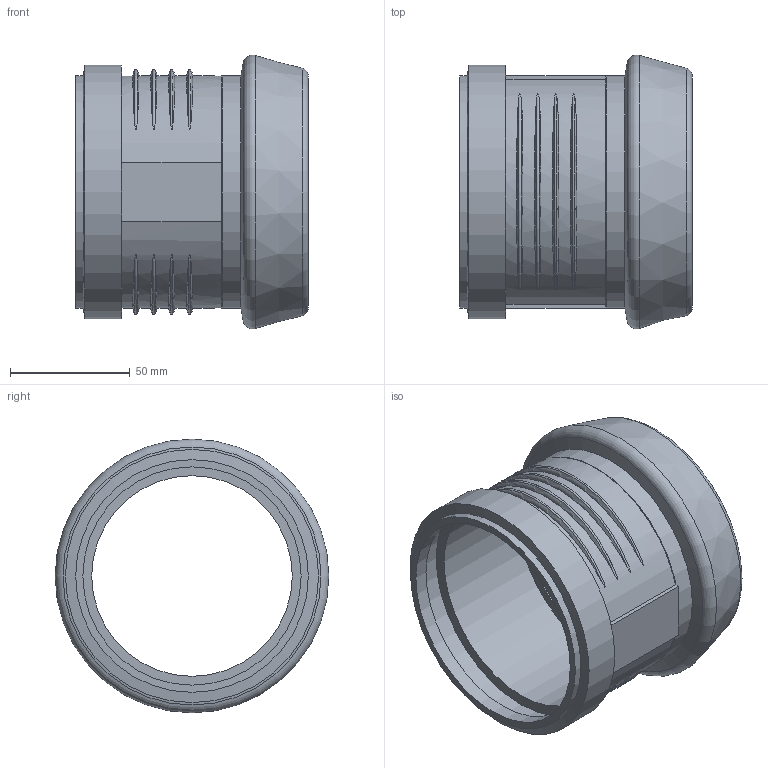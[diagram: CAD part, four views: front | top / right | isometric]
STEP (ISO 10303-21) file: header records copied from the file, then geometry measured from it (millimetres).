
FILE_DESCRIPTION(/* description */ (''),/* implementation_level */ '2;1');
FILE_NAME(/* name */ 'Z:\Geberit\Export\NewStep\390496.stp',/* time_stamp */ '2014-04-02T08:13:43+02:00',/* author */ ('Judith'),/* organization */ (''),/* preprocessor_version */ 'ST-DEVELOPER v15.2',/* originating_system */ 'Autodesk Inventor 2014',/* authorisation */ '');
FILE_SCHEMA (('AUTOMOTIVE_DESIGN { 1 0 10303 214 3 1 1 }'));
Length unit declared in the file: millimetre
Products named in the file (3): 861471; 861403; 390496
Bounding box: 97.3 x 114.38 x 114.38 mm (x, y, z)
Volume: 116644.3 mm3; surface area: 77577 mm2
Topology: 2 solids, 2 shells, 61 faces, 142 edges, 95 vertices
Faces by surface type: torus 29, plane 12, cylinder 11, cone 9
Full cylindrical faces by diameter (mm): 83.8 x1, 91.2 x2, 91.45 x2, 97.2 x2, 99.8 x1, 105.8 x1
Entity records: 2405 total; most frequent: CARTESIAN_POINT 1046, DIRECTION 242, ORIENTED_EDGE 236, EDGE_CURVE 118, AXIS2_PLACEMENT_3D 114, EDGE_LOOP 98, VERTEX_POINT 94, STYLED_ITEM 63
